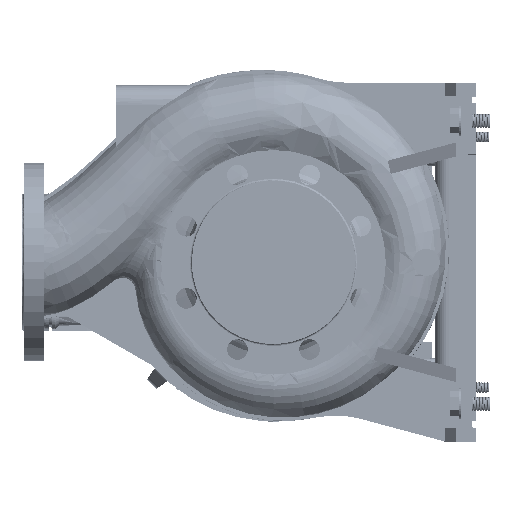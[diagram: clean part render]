
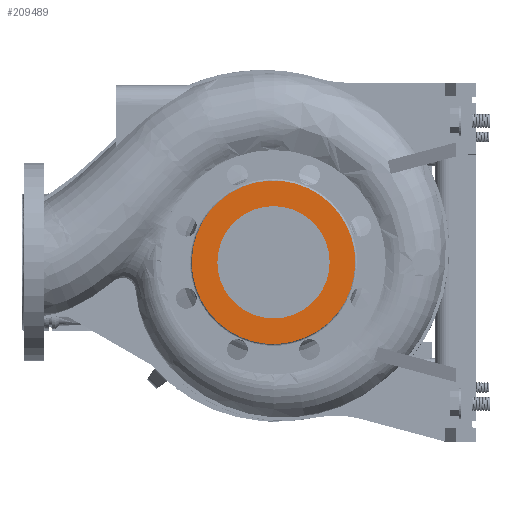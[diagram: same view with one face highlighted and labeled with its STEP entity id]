
A CAD part, left-side view. The second image highlights one B-rep face of the part: STEP entity #209489.
In plain terms, the highlighted planar face has unit normal (-1, 0, 0).
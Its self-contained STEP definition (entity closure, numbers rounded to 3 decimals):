
#9581 = ORIENTED_EDGE ( 'NONE', *, *, #191425, .F. ) ;
#9852 = CARTESIAN_POINT ( 'NONE',  ( -140., 87.222, -26.458 ) ) ;
#11822 = CARTESIAN_POINT ( 'NONE',  ( -140., 91., 2.977 ) ) ;
#13054 = CARTESIAN_POINT ( 'NONE',  ( -140., 90.707, 8.934 ) ) ;
#14299 = CARTESIAN_POINT ( 'NONE',  ( -140., 79.748, 44.311 ) ) ;
#23614 = CARTESIAN_POINT ( 'NONE',  ( -140., 91., 0. ) ) ;
#24717 = EDGE_LOOP ( 'NONE', ( #207409, #148285 ) ) ;
#25119 = CARTESIAN_POINT ( 'NONE',  ( -140., 90.707, -8.934 ) ) ;
#25337 = CARTESIAN_POINT ( 'NONE',  ( -140., 0., 0. ) ) ;
#28856 = CARTESIAN_POINT ( 'NONE',  ( -140., -35.049, -84.615 ) ) ;
#32002 = FACE_BOUND ( 'NONE', #24717, .T. ) ;
#33946 = B_SPLINE_CURVE_WITH_KNOTS ( 'NONE', 3,
 ( #244326, #11822, #13054, #110361, #90115, #166001, #14299, #147024, #67492, #66250, #240628, #187438, #162302, #167222, #48531, #239387, #203909, #105419, #144576, #221647, #224107, #125632, #145814, #143323 ),
 .UNSPECIFIED., .F., .F.,
 ( 4, 1, 1, 1, 1, 1, 1, 1, 1, 1, 1, 1, 1, 1, 1, 1, 1, 1, 1, 1, 1, 4 ),
 ( 0., 0.009, 0.018, 0.027, 0.036, 0.045, 0.058, 0.072, 0.081, 0.09, 0.099, 0.108, 0.126, 0.143, 0.161, 0.179, 0.197, 0.215, 0.233, 0.251, 0.269, 0.287 ),
 .UNSPECIFIED. ) ;
#44094 = CARTESIAN_POINT ( 'NONE',  ( -140., 42.966, -80.384 ) ) ;
#45321 = CARTESIAN_POINT ( 'NONE',  ( -140., -17.868, -89.827 ) ) ;
#48531 = CARTESIAN_POINT ( 'NONE',  ( -140., 0.001, 91.586 ) ) ;
#49042 = CARTESIAN_POINT ( 'NONE',  ( -140., -50.883, -76.151 ) ) ;
#50941 = DIRECTION ( 'NONE',  ( 1., 0., 0. ) ) ;
#58086 = VERTEX_POINT ( 'NONE', #193521 ) ;
#64533 = DIRECTION ( 'NONE',  ( 0., 0., 1. ) ) ;
#65526 = CARTESIAN_POINT ( 'NONE',  ( -140., 32.194, -85.479 ) ) ;
#66250 = CARTESIAN_POINT ( 'NONE',  ( -140., 57.823, 70.457 ) ) ;
#67492 = CARTESIAN_POINT ( 'NONE',  ( -140., 65.552, 63.451 ) ) ;
#70132 = AXIS2_PLACEMENT_3D ( 'NONE', #25337, #178271, #64533 ) ;
#77651 = CIRCLE ( 'NONE', #194765, 62.5 ) ;
#78551 = VERTEX_POINT ( 'NONE', #169920 ) ;
#81972 = CARTESIAN_POINT ( 'NONE',  ( -140., -91., -5.956 ) ) ;
#86918 = CARTESIAN_POINT ( 'NONE',  ( -140., 89.395, -17.782 ) ) ;
#89530 = AXIS2_PLACEMENT_3D ( 'NONE', #163476, #50941, #186169 ) ;
#90115 = CARTESIAN_POINT ( 'NONE',  ( -140., 87.222, 26.458 ) ) ;
#91943 = B_SPLINE_CURVE_WITH_KNOTS ( 'NONE', 3,
 ( #145089, #81972, #222158, #103432, #198240, #123650, #49042, #28856, #45321, #105912, #122390, #65526, #44094, #199469, #182996, #180535, #200724, #159092, #126123, #9852, #86918, #25119, #102182, #142587 ),
 .UNSPECIFIED., .F., .F.,
 ( 4, 1, 1, 1, 1, 1, 1, 1, 1, 1, 1, 1, 1, 1, 1, 1, 1, 1, 1, 1, 1, 4 ),
 ( 0., 0.018, 0.036, 0.054, 0.072, 0.09, 0.108, 0.126, 0.144, 0.161, 0.179, 0.188, 0.197, 0.206, 0.215, 0.229, 0.242, 0.251, 0.26, 0.269, 0.278, 0.287 ),
 .UNSPECIFIED. ) ;
#102182 = CARTESIAN_POINT ( 'NONE',  ( -140., 91., -2.977 ) ) ;
#103432 = CARTESIAN_POINT ( 'NONE',  ( -140., -84.615, -35.049 ) ) ;
#105419 = CARTESIAN_POINT ( 'NONE',  ( -140., -50.883, 76.151 ) ) ;
#105912 = CARTESIAN_POINT ( 'NONE',  ( -140., 0.001, -91.586 ) ) ;
#110361 = CARTESIAN_POINT ( 'NONE',  ( -140., 89.395, 17.782 ) ) ;
#117640 = VERTEX_POINT ( 'NONE', #190902 ) ;
#122390 = CARTESIAN_POINT ( 'NONE',  ( -140., 17.866, -89.828 ) ) ;
#123650 = CARTESIAN_POINT ( 'NONE',  ( -140., -64.762, -64.762 ) ) ;
#125632 = CARTESIAN_POINT ( 'NONE',  ( -140., -89.827, 17.868 ) ) ;
#126123 = CARTESIAN_POINT ( 'NONE',  ( -140., 84.208, -34.88 ) ) ;
#127144 = DIRECTION ( 'NONE',  ( 0., 0., 1. ) ) ;
#138602 = EDGE_LOOP ( 'NONE', ( #9581, #241675 ) ) ;
#142587 = CARTESIAN_POINT ( 'NONE',  ( -140., 91., 0. ) ) ;
#143323 = CARTESIAN_POINT ( 'NONE',  ( -140., -91., 0. ) ) ;
#144576 = CARTESIAN_POINT ( 'NONE',  ( -140., -64.762, 64.762 ) ) ;
#144863 = EDGE_CURVE ( 'NONE', #78551, #58086, #77651, .T. ) ;
#145089 = CARTESIAN_POINT ( 'NONE',  ( -140., -91., 0. ) ) ;
#145814 = CARTESIAN_POINT ( 'NONE',  ( -140., -91., 5.956 ) ) ;
#147024 = CARTESIAN_POINT ( 'NONE',  ( -140., 73.357, 54.405 ) ) ;
#148285 = ORIENTED_EDGE ( 'NONE', *, *, #144863, .F. ) ;
#149870 = DIRECTION ( 'NONE',  ( -1., 0., 0. ) ) ;
#159092 = CARTESIAN_POINT ( 'NONE',  ( -140., 79.748, -44.311 ) ) ;
#162302 = CARTESIAN_POINT ( 'NONE',  ( -140., 32.194, 85.479 ) ) ;
#163476 = CARTESIAN_POINT ( 'NONE',  ( -140., -92.092, 92.181 ) ) ;
#166001 = CARTESIAN_POINT ( 'NONE',  ( -140., 84.208, 34.88 ) ) ;
#167222 = CARTESIAN_POINT ( 'NONE',  ( -140., 17.866, 89.828 ) ) ;
#168433 = FACE_OUTER_BOUND ( 'NONE', #138602, .T. ) ;
#169920 = CARTESIAN_POINT ( 'NONE',  ( -140., 0., -62.5 ) ) ;
#178271 = DIRECTION ( 'NONE',  ( -1., 0., 0. ) ) ;
#180535 = CARTESIAN_POINT ( 'NONE',  ( -140., 65.552, -63.451 ) ) ;
#182996 = CARTESIAN_POINT ( 'NONE',  ( -140., 57.823, -70.457 ) ) ;
#186169 = DIRECTION ( 'NONE',  ( 0., 0., -1. ) ) ;
#187438 = CARTESIAN_POINT ( 'NONE',  ( -140., 42.966, 80.384 ) ) ;
#189030 = CARTESIAN_POINT ( 'NONE',  ( -140., 0., 0. ) ) ;
#190902 = CARTESIAN_POINT ( 'NONE',  ( -140., -91., 0. ) ) ;
#191425 = EDGE_CURVE ( 'NONE', #117640, #199834, #91943, .T. ) ;
#193521 = CARTESIAN_POINT ( 'NONE',  ( -140., 0., 62.5 ) ) ;
#194765 = AXIS2_PLACEMENT_3D ( 'NONE', #189030, #149870, #127144 ) ;
#198240 = CARTESIAN_POINT ( 'NONE',  ( -140., -76.151, -50.883 ) ) ;
#199329 = CIRCLE ( 'NONE', #70132, 62.5 ) ;
#199469 = CARTESIAN_POINT ( 'NONE',  ( -140., 50.638, -75.785 ) ) ;
#199834 = VERTEX_POINT ( 'NONE', #23614 ) ;
#200724 = CARTESIAN_POINT ( 'NONE',  ( -140., 73.357, -54.405 ) ) ;
#202633 = PLANE ( 'NONE',  #89530 ) ;
#203909 = CARTESIAN_POINT ( 'NONE',  ( -140., -35.049, 84.615 ) ) ;
#207409 = ORIENTED_EDGE ( 'NONE', *, *, #223573, .F. ) ;
#209489 = ADVANCED_FACE ( 'NONE', ( #168433, #32002 ), #202633, .F. ) ;
#221647 = CARTESIAN_POINT ( 'NONE',  ( -140., -76.151, 50.883 ) ) ;
#222158 = CARTESIAN_POINT ( 'NONE',  ( -140., -89.827, -17.868 ) ) ;
#223573 = EDGE_CURVE ( 'NONE', #58086, #78551, #199329, .T. ) ;
#224107 = CARTESIAN_POINT ( 'NONE',  ( -140., -84.615, 35.049 ) ) ;
#239387 = CARTESIAN_POINT ( 'NONE',  ( -140., -17.868, 89.827 ) ) ;
#240628 = CARTESIAN_POINT ( 'NONE',  ( -140., 50.638, 75.785 ) ) ;
#241675 = ORIENTED_EDGE ( 'NONE', *, *, #248669, .F. ) ;
#244326 = CARTESIAN_POINT ( 'NONE',  ( -140., 91., 0. ) ) ;
#248669 = EDGE_CURVE ( 'NONE', #199834, #117640, #33946, .T. ) ;
